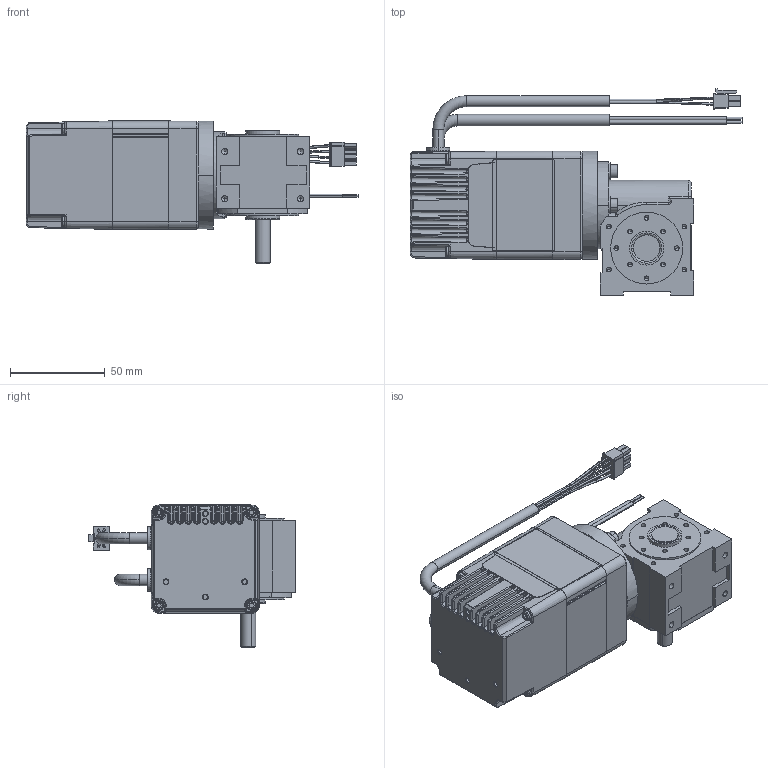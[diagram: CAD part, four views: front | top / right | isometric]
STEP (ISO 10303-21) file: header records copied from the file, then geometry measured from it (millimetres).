
FILE_DESCRIPTION (( 'STEP AP214' ), '1' );
FILE_NAME ('GP-SN15 R 77W - 1.STEP', '2023-05-25T13:08:50', ( '' ), ( '' ), 'SwSTEP 2.0', 'SolidWorks 2021', '' );
FILE_SCHEMA (( 'AUTOMOTIVE_DESIGN' ));
Length unit declared in the file: millimetre
Products named in the file (17): NBR_WDR_8x14x4; socket head cap screw_iso_ISO 4762 M4 x 12 - 12C; xa010873_1; xa010873_1_2; K_14x6.0; 15-D-004_3D-Export_Eingeblendeter Schneckenkanal; xa010873_1_6; xa010873_1_3; GP-SN15 R 77W - 1; plain washer normal grade a_iso_Washer ISO 7089 - 4; 15-G-005_3D-Export; xa010873_1_5; 15-M-024 I 77W_4000Upm; hexa csunk flathd screw_iso_ISO 14581 M3x8x8-N; 15-W-061_3D-Export; SN15_3D-Export_Welle 1; xa010873_1_4
Assembly tree (23 placements, depth 3):
  GP-SN15 R 77W - 1
    SN15_3D-Export_Welle 1
      15-G-005_3D-Export
      15-D-004_3D-Export_Eingeblendeter Schneckenkanal
      15-W-061_3D-Export
      NBR_WDR_8x14x4
      K_14x6.0
      hexa csunk flathd screw_iso_ISO 14581 M3x8x8-N  x4
      plain washer normal grade a_iso_Washer ISO 7089 - 4  x3
      socket head cap screw_iso_ISO 4762 M4 x 12 - 12C  x3
    15-M-024 I 77W_4000Upm
      xa010873_1
      xa010873_1_3
      xa010873_1_6
      xa010873_1_5
      xa010873_1_4
      xa010873_1_2
Bounding box: 175.45 x 109.33 x 75.2 mm (x, y, z)
Volume: 423151.3 mm3; surface area: 82102.5 mm2
Topology: 21 solids, 21 shells, 1551 faces, 3773 edges, 2288 vertices
Faces by surface type: cylinder 588, plane 492, cone 212, bspline 106, torus 83, sphere 70
Entity records: 53553 total; most frequent: CARTESIAN_POINT 20400, ORIENTED_EDGE 6702, DIRECTION 6499, EDGE_CURVE 3351, AXIS2_PLACEMENT_3D 2418, VERTEX_POINT 2074, LINE 1663, VECTOR 1663
